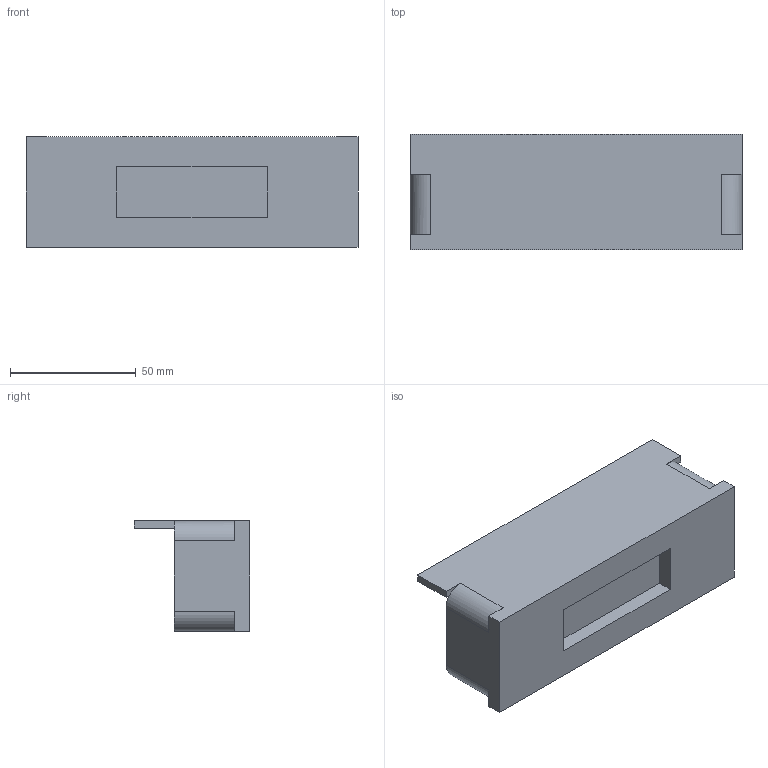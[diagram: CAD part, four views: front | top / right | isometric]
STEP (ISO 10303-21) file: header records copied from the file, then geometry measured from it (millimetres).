
FILE_DESCRIPTION(('Open CASCADE Model'),'2;1');
FILE_NAME('Open CASCADE Shape Model','2026-10-06T19:56:10',('Author'),( 'Open CASCADE'),'Open CASCADE STEP processor 7.9','Open CASCADE 7.9' ,'Unknown');
FILE_SCHEMA(('AUTOMOTIVE_DESIGN { 1 0 10303 214 1 1 1 1 }'));
Length unit declared in the file: millimetre
Products named in the file (5): Open CASCADE STEP translator 7.9 37; Open CASCADE STEP translator 7.9 37.1; Open CASCADE STEP translator 7.9 37.2; Open CASCADE STEP translator 7.9 37.3; Open CASCADE STEP translator 7.9 37.4
Assembly tree (4 placements, depth 2):
  Open CASCADE STEP translator 7.9 37
    Open CASCADE STEP translator 7.9 37.1
    Open CASCADE STEP translator 7.9 37.2
    Open CASCADE STEP translator 7.9 37.3
    Open CASCADE STEP translator 7.9 37.4
Bounding box: 132 x 46 x 44 mm (x, y, z)
Volume: 84593.7 mm3; surface area: 46085.4 mm2
Topology: 4 solids, 4 shells, 42 faces, 94 edges, 62 vertices
Faces by surface type: plane 32, cylinder 10
Full cylindrical faces by diameter (mm): 28 x3, 32 x3
Entity records: 2469 total; most frequent: CARTESIAN_POINT 441, DIRECTION 373, LINE 218, VECTOR 218, ORIENTED_EDGE 188, PCURVE 188, DEFINITIONAL_REPRESENTATION 188, EDGE_CURVE 94
